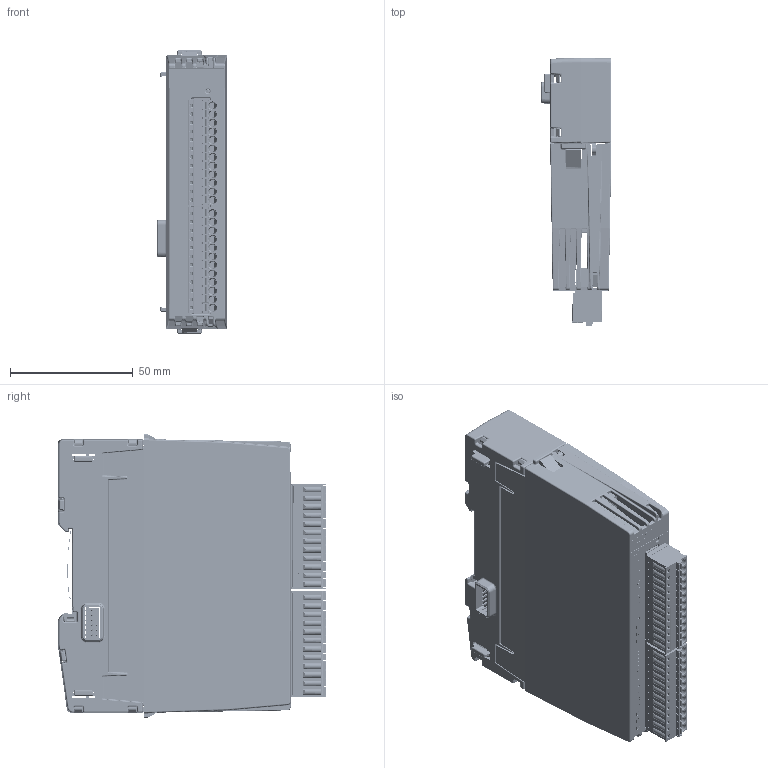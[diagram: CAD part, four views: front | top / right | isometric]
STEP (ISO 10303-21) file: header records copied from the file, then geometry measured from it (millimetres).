
FILE_DESCRIPTION(/* description */ (''),/* implementation_level */ '2;1');
FILE_NAME(/* name */ 'C:\Users\Public\Documents\Autodesk\Inventor 2023\DI20C_Simplified+BackBB21B.stp',/* time_stamp */ '2024-10-15T21:04:44+02:00',/* author */ ('shoma'),/* organization */ (''),/* preprocessor_version */ 'ST-DEVELOPER v19',/* originating_system */ 'Autodesk Inventor 2023',/* authorisation */ '');
FILE_SCHEMA (('AUTOMOTIVE_DESIGN { 1 0 10303 214 3 1 1 }'));
Products named in the file (1): DI20C_Simplified+BackBB21B
Bounding box: 28.9 x 109.39 x 115.5 mm (x, y, z)
Volume: 153432.1 mm3; surface area: 92866 mm2
Topology: 8 solids, 56 shells, 9294 faces, 24608 edges, 15506 vertices
Faces by surface type: plane 5589, cylinder 2391, bspline 874, cone 233, sphere 162, torus 45
Full cylindrical faces by diameter (mm): 0.296 x2, 0.3 x152, 0.457 x2, 0.7 x36, 0.8 x6, 0.85 x24, 0.9 x8, 1.17 x24, 1.2 x24, 1.25 x24, 1.3 x24, 1.4 x4, 1.6 x26, 2.35 x2, 2.5 x1, 3 x1, 3.1 x24, 3.25 x2
Entity records: 321221 total; most frequent: CARTESIAN_POINT 82746, ORIENTED_EDGE 48910, DIRECTION 45378, EDGE_CURVE 24455, LINE 17216, VECTOR 17216, VERTEX_POINT 15506, AXIS2_PLACEMENT_3D 14081
